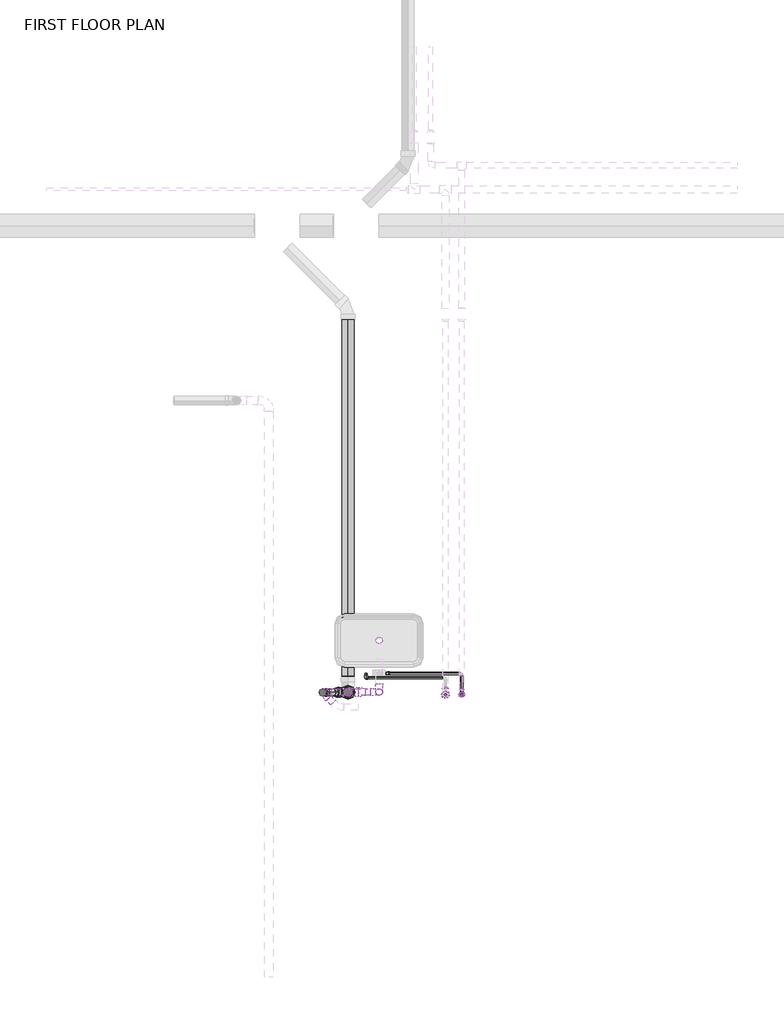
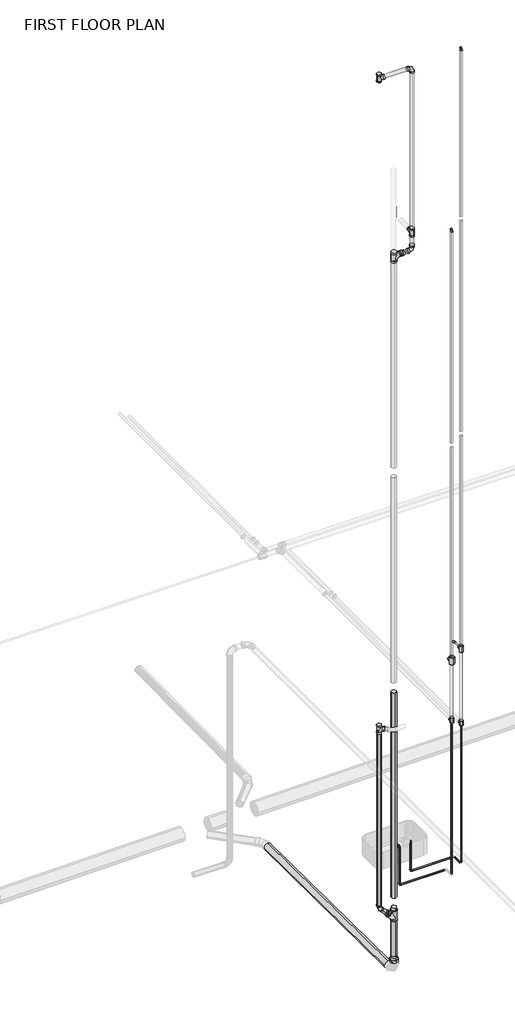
# One storey, part 2 of 29: 30 pipe fittings, 30 pipe segments.
"""IFC4 building model written with IfcOpenShell, lengths in millimetres."""

from ifc_helpers import new_model, si_unit, point, frame, frame_2d, origin, place, context, project, spatial, circle_curve, trimmed, segment, composite_curve, outline, extrude, transform, mapped, element, save
from components import bend_pvc_sch_40_dwv_standard_80f96eb1, bend_pvc_sch_40_dwv_standard_35af41d9, bend_pvc_sch_40_dwv_standard_07560f8e, ges_wye_45_deg_threaded_mi_class_150_cast_iron_sanitary_c88a242e, pipe_elbow_copper_k_aad62f2d, pipe_elbow_copper_k_4cfe590c, pipe_tee_copper_k_36278b8a, pipe_tee_copper_k_7127fd44, pipe_tee_copper_k_60c871d1, pipe_transition_copper_k_63e0b6b0, pipe_transition_copper_k_5cd7eb3f, pipe_transition_copper_k_e8f139fb, pipe_transition_copper_k_0ad24bcb, pipe_transition_copper_k_8ba7ae3f, pipe_transition_copper_k_0f2e1631, pipe_transition_copper_k_f9440895, pipe_transition_copper_k_17d9deb3, pipe_transition_copper_k_4b29cc47, reducer_pvc_sch_40_dwv_standard_b23fa098, reducer_pvc_sch_40_dwv_standard_f8e5081b, tee_sanitary_pvc_sch_40_dwv_standard_63ee02c0, tee_sanitary_pvc_sch_40_dwv_standard_3578d342, tee_sanitary_pvc_sch_40_dwv_standard_31acfb72, tee_sanitary_pvc_sch_40_dwv_standard_70a8f0c3

model = new_model("IFC4")

# Units and contexts
model_context = context("Model", 3, world=origin())
ifc_project = project(units=[si_unit("LENGTHUNIT", "METRE", prefix="MILLI")], contexts=[model_context])

# Site, building, storey
site = spatial("IfcSite", under=ifc_project)
building = spatial("IfcBuilding", under=site)
storey = spatial("IfcBuildingStorey", under=building, Name="FIRST FLOOR PLAN", Elevation=0.0)

# Pipe fittings
placement = place(None, origin())
bend_pvc_sch_40_dwv_standard_shape = bend_pvc_sch_40_dwv_standard_80f96eb1(model_context)
element("IfcPipeFitting", 1, ObjectType="Bend - PVC - Sch 40 - DWV : Standard", at=placement, inside=storey, context=model_context, shape_type="MappedRepresentation", body=[
    mapped(bend_pvc_sch_40_dwv_standard_shape, transform((-4229.3083504, 2089.7012881, 8872.178232), x_axis=(0.0, 0.0, -1.0), y_axis=(1.0, 0.0, 0.0), z_axis=(0.0, -1.0, 0.0))),
])
bend_pvc_sch_40_dwv_standard_2_shape = bend_pvc_sch_40_dwv_standard_35af41d9(model_context)
element("IfcPipeFitting", 2, ObjectType="Bend - PVC - Sch 40 - DWV : Standard", at=placement, inside=storey, context=model_context, shape_type="MappedRepresentation", body=[
    mapped(bend_pvc_sch_40_dwv_standard_2_shape, transform((-4229.3040125, 2089.7012881, 11280.7857867), x_axis=(0.0, 0.0, 1.0), y_axis=(1.0, 0.0, 0.0), z_axis=(0.0, 1.0, 0.0))),
])
bend_pvc_sch_40_dwv_standard_3_shape = bend_pvc_sch_40_dwv_standard_07560f8e(model_context)
element("IfcPipeFitting", 3, ObjectType="Bend - PVC - Sch 40 - DWV : Standard", at=placement, inside=storey, context=model_context, shape_type="MappedRepresentation", body=[
    mapped(bend_pvc_sch_40_dwv_standard_3_shape, transform((-4642.7637683, 2088.8569205, 307.7877471), x_axis=(0.0, 0.0, -1.0), y_axis=(-0.9999896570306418, -0.004548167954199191, 0.0), z_axis=(-0.004548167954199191, 0.9999896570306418, 0.0))),
])
ges_wye_45_deg_threaded_mi_class_150_cast_iron_sanitary_shape = ges_wye_45_deg_threaded_mi_class_150_cast_iron_sanitary_c88a242e(model_context)
element("IfcPipeFitting", 4, ObjectType="GES Wye 45 Deg - Threaded - MI - Class 150 : Cast Iron- Sanitary", at=placement, inside=storey, context=model_context, shape_type="MappedRepresentation", body=[
    mapped(ges_wye_45_deg_threaded_mi_class_150_cast_iron_sanitary_shape, transform((-4457.3676583, 2089.8980394, 122.1428758), x_axis=(0.0, 0.0, 1.0), y_axis=(-0.9999896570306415, -0.004548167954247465, 0.0), z_axis=(0.004548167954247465, -0.9999896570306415, 0.0))),
])
pipe_elbow_copper_k_shape = pipe_elbow_copper_k_aad62f2d(model_context)
element("IfcPipeFitting", 5, ObjectType="Pipe Elbow : Copper- K", at=placement, inside=storey, context=model_context, shape_type="MappedRepresentation", body=[
    mapped(pipe_elbow_copper_k_shape, transform((-3623.2336623, 2071.7561808, 11328.4), x_axis=(0.0, 0.0, 1.0), y_axis=(9.038744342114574e-05, 0.9999999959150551, 0.0), z_axis=(-0.9999999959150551, 9.038744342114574e-05, 0.0))),
])
element("IfcPipeFitting", 6, ObjectType="Pipe Elbow : Copper- K", at=placement, inside=storey, context=model_context, shape_type="MappedRepresentation", body=[
    mapped(pipe_elbow_copper_k_shape, transform((-3623.2336623, 2227.8137881, 3393.4757324), x_axis=(0.0, 1.0, 0.0), y_axis=(-0.9999999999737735, 0.0, 7.242448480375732e-06), z_axis=(7.242448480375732e-06, 0.0, 0.9999999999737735))),
])
element("IfcPipeFitting", 7, ObjectType="Pipe Elbow : Copper- K", at=placement, inside=storey, context=model_context, shape_type="MappedRepresentation", body=[
    mapped(pipe_elbow_copper_k_shape, transform((-4326.5858484, 2195.725865, 436.8601563), x_axis=(-1.0, 0.0, 0.0), y_axis=(0.0, 0.0, 1.0), z_axis=(0.0, 1.0, 0.0))),
])
element("IfcPipeFitting", 8, ObjectType="Pipe Elbow : Copper- K", at=placement, inside=storey, context=model_context, shape_type="MappedRepresentation", body=[
    mapped(pipe_elbow_copper_k_shape, transform((-4326.5858484, 2195.725865, 944.8601562), x_axis=(0.0, 0.0, 1.0), y_axis=(0.0, 1.0, 0.0), z_axis=(-1.0, 0.0, 0.0))),
])
element("IfcPipeFitting", 9, ObjectType="Pipe Elbow : Copper- K", at=placement, inside=storey, context=model_context, shape_type="MappedRepresentation", body=[
    mapped(pipe_elbow_copper_k_shape, transform((-3742.3858484, 2071.7561808, 8971.2601562), x_axis=(0.0, 0.0, 1.0), y_axis=(0.0, 1.0, 0.0), z_axis=(-1.0, 0.0, 0.0))),
])
pipe_elbow_copper_k_2_shape = pipe_elbow_copper_k_4cfe590c(model_context)
element("IfcPipeFitting", 10, ObjectType="Pipe Elbow : Copper- K", at=placement, inside=storey, context=model_context, shape_type="MappedRepresentation", body=[
    mapped(pipe_elbow_copper_k_2_shape, transform((-4169.3336623, 2227.8137881, 548.6796875), x_axis=(0.0, 0.0, -1.0), y_axis=(1.0, 0.0, 0.0), z_axis=(0.0, -1.0, 0.0))),
])
pipe_tee_copper_k_shape = pipe_tee_copper_k_36278b8a(model_context)
element("IfcPipeFitting", 11, ObjectType="Pipe Tee : Copper- K", at=placement, inside=storey, context=model_context, shape_type="MappedRepresentation", body=[
    mapped(pipe_tee_copper_k_shape, transform((-3742.3858484, 2071.7561808, 3281.6214111), x_axis=(0.0, 0.0, 1.0), y_axis=(0.0, -1.0, 0.0), z_axis=(1.0, 0.0, 0.0))),
])
pipe_tee_copper_k_2_shape = pipe_tee_copper_k_7127fd44(model_context)
element("IfcPipeFitting", 12, ObjectType="Pipe Tee : Copper- K", at=placement, inside=storey, context=model_context, shape_type="MappedRepresentation", body=[
    mapped(pipe_tee_copper_k_2_shape, transform((-3623.2336623, 2071.7561808, 3393.4757324), x_axis=(0.0, 0.0, 1.0), y_axis=(0.0, -1.0, 0.0), z_axis=(1.0, 0.0, 0.0))),
])
pipe_tee_copper_k_3_shape = pipe_tee_copper_k_60c871d1(model_context)
element("IfcPipeFitting", 13, ObjectType="Pipe Tee : Copper- K", at=placement, inside=storey, context=model_context, shape_type="MappedRepresentation", body=[
    mapped(pipe_tee_copper_k_3_shape, transform((-3623.2336623, 2071.7561808, 2413.0), x_axis=(0.0, 0.0, -1.0), y_axis=(0.0, -1.0, 0.0), z_axis=(-1.0, 0.0, 0.0))),
])
element("IfcPipeFitting", 14, ObjectType="Pipe Tee : Copper- K", at=placement, inside=storey, context=model_context, shape_type="MappedRepresentation", body=[
    mapped(pipe_tee_copper_k_3_shape, transform((-3742.3858484, 2071.7561808, 2490.6882812), x_axis=(0.0, 0.0, -1.0), y_axis=(0.0, -1.0, 0.0), z_axis=(-1.0, 0.0, 0.0))),
])
pipe_transition_copper_k_shape = pipe_transition_copper_k_63e0b6b0(model_context)
element("IfcPipeFitting", 15, ObjectType="Pipe Transition : Copper- K", at=placement, inside=storey, context=model_context, shape_type="MappedRepresentation", body=[
    mapped(pipe_transition_copper_k_shape, transform((-3623.2336623, 2071.7561808, 11310.9375), x_axis=(0.0, 0.0, -1.0), y_axis=(0.9999999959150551, -9.038744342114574e-05, 0.0), z_axis=(-9.038744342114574e-05, -0.9999999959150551, 0.0))),
])
pipe_transition_copper_k_2_shape = pipe_transition_copper_k_5cd7eb3f(model_context)
element("IfcPipeFitting", 16, ObjectType="Pipe Transition : Copper- K", at=placement, inside=storey, context=model_context, shape_type="MappedRepresentation", body=[
    mapped(pipe_transition_copper_k_2_shape, transform((-3742.3858484, 2071.7561808, 3324.4839111), x_axis=(0.0, 0.0, 1.0), y_axis=(-1.0, 0.0, 0.0), z_axis=(0.0, -1.0, 0.0))),
])
pipe_transition_copper_k_3_shape = pipe_transition_copper_k_e8f139fb(model_context)
element("IfcPipeFitting", 17, ObjectType="Pipe Transition : Copper- K", at=placement, inside=storey, context=model_context, shape_type="MappedRepresentation", body=[
    mapped(pipe_transition_copper_k_3_shape, transform((-3742.3858484, 2114.6186808, 3281.6214111), x_axis=(0.0, 1.0, 0.0), y_axis=(-1.0, 0.0, 0.0), z_axis=(0.0, 0.0, 1.0))),
])
pipe_transition_copper_k_4_shape = pipe_transition_copper_k_0ad24bcb(model_context)
element("IfcPipeFitting", 18, ObjectType="Pipe Transition : Copper- K", at=placement, inside=storey, context=model_context, shape_type="MappedRepresentation", body=[
    mapped(pipe_transition_copper_k_4_shape, transform((-3623.2336623, 2108.2686808, 3393.4757324), x_axis=(0.0, 1.0, 0.0), y_axis=(-1.0, 0.0, 0.0), z_axis=(0.0, 0.0, 1.0))),
])
pipe_transition_copper_k_5_shape = pipe_transition_copper_k_8ba7ae3f(model_context)
element("IfcPipeFitting", 19, ObjectType="Pipe Transition : Copper- K", at=placement, inside=storey, context=model_context, shape_type="MappedRepresentation", body=[
    mapped(pipe_transition_copper_k_5_shape, transform((-3742.3858484, 2071.7561808, 8953.7976563), x_axis=(0.0, 0.0, -1.0), y_axis=(1.0, 0.0, 0.0), z_axis=(0.0, -1.0, 0.0))),
])
pipe_transition_copper_k_6_shape = pipe_transition_copper_k_0f2e1631(model_context)
element("IfcPipeFitting", 20, ObjectType="Pipe Transition : Copper- K", at=placement, inside=storey, context=model_context, shape_type="MappedRepresentation", body=[
    mapped(pipe_transition_copper_k_6_shape, transform((-3623.2336623, 2071.7561808, 3429.9882324), x_axis=(0.0, 0.0, 1.0), y_axis=(-1.0, 0.0, 0.0), z_axis=(0.0, -1.0, 0.0))),
])
pipe_transition_copper_k_7_shape = pipe_transition_copper_k_f9440895(model_context)
element("IfcPipeFitting", 21, ObjectType="Pipe Transition : Copper- K", at=placement, inside=storey, context=model_context, shape_type="MappedRepresentation", body=[
    mapped(pipe_transition_copper_k_7_shape, transform((-3623.2336623, 2071.7561808, 3356.9632324), x_axis=(0.0, 0.0, -1.0), y_axis=(-1.0, 0.0, 0.0), z_axis=(0.0, 1.0, 0.0))),
])
pipe_transition_copper_k_8_shape = pipe_transition_copper_k_17d9deb3(model_context)
element("IfcPipeFitting", 22, ObjectType="Pipe Transition : Copper- K", at=placement, inside=storey, context=model_context, shape_type="MappedRepresentation", body=[
    mapped(pipe_transition_copper_k_8_shape, transform((-3742.3858484, 2071.7561808, 3238.7589111), x_axis=(0.0, 0.0, -1.0), y_axis=(-1.0, 0.0, 0.0), z_axis=(0.0, 1.0, 0.0))),
])
pipe_transition_copper_k_9_shape = pipe_transition_copper_k_4b29cc47(model_context)
element("IfcPipeFitting", 23, ObjectType="Pipe Transition : Copper- K", at=placement, inside=storey, context=model_context, shape_type="MappedRepresentation", body=[
    mapped(pipe_transition_copper_k_9_shape, transform((-3623.2336623, 2071.7561808, 2379.6625), x_axis=(0.0, 0.0, -1.0), y_axis=(1.0, 0.0, 0.0), z_axis=(0.0, -1.0, 0.0))),
])
reducer_pvc_sch_40_dwv_standard_shape = reducer_pvc_sch_40_dwv_standard_b23fa098(model_context)
element("IfcPipeFitting", 24, ObjectType="Reducer - PVC - Sch 40 - DWV : Standard", at=placement, inside=storey, context=model_context, shape_type="MappedRepresentation", body=[
    mapped(reducer_pvc_sch_40_dwv_standard_shape, transform((-4379.3226005, 2089.7012881, 8870.6155835), x_axis=(0.9999457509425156, 0.0, 0.010416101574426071), y_axis=(0.0, 1.0000000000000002, 0.0), z_axis=(-0.010416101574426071, 0.0, 0.9999457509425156))),
])
element("IfcPipeFitting", 25, ObjectType="Reducer - PVC - Sch 40 - DWV : Standard", at=placement, inside=storey, context=model_context, shape_type="MappedRepresentation", body=[
    mapped(reducer_pvc_sch_40_dwv_standard_shape, transform((-4528.9532566, 2089.3745552, 193.9792248), x_axis=(-0.7071093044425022, -0.0032160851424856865, 0.7070969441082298), y_axis=(0.004548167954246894, -0.9999896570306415, 0.0), z_axis=(0.7070896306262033, 0.003215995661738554, 0.7071166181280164))),
])
reducer_pvc_sch_40_dwv_standard_2_shape = reducer_pvc_sch_40_dwv_standard_f8e5081b(model_context)
element("IfcPipeFitting", 26, ObjectType="Reducer - PVC - Sch 40 - DWV : Standard", at=placement, inside=storey, context=model_context, shape_type="MappedRepresentation", body=[
    mapped(reducer_pvc_sch_40_dwv_standard_2_shape, transform((-4457.3750986, 2089.9260742, -461.5373), x_axis=(0.0, 0.0, 1.0), y_axis=(0.0, -1.0, 0.0), z_axis=(1.0, 0.0, 0.0))),
])
tee_sanitary_pvc_sch_40_dwv_standard_shape = tee_sanitary_pvc_sch_40_dwv_standard_63ee02c0(model_context)
element("IfcPipeFitting", 27, ObjectType="Tee Sanitary - PVC - Sch 40 - DWV : Standard", at=placement, inside=storey, context=model_context, shape_type="MappedRepresentation", body=[
    mapped(tee_sanitary_pvc_sch_40_dwv_standard_shape, transform((-4457.3676583, 2089.8980394, 8869.5241105), x_axis=(0.0, 0.0, 1.0), y_axis=(1.0, 0.0, 0.0), z_axis=(0.0, 1.0, 0.0))),
])
tee_sanitary_pvc_sch_40_dwv_standard_2_shape = tee_sanitary_pvc_sch_40_dwv_standard_3578d342(model_context)
element("IfcPipeFitting", 28, ObjectType="Tee Sanitary - PVC - Sch 40 - DWV : Standard", at=placement, inside=storey, context=model_context, shape_type="MappedRepresentation", body=[
    mapped(tee_sanitary_pvc_sch_40_dwv_standard_2_shape, transform((-4229.3040125, 2089.7012881, 9112.4170389), x_axis=(0.0, 0.0, 1.0), y_axis=(0.0, 1.0, 0.0), z_axis=(-1.0, 0.0, 0.0))),
])
tee_sanitary_pvc_sch_40_dwv_standard_3_shape = tee_sanitary_pvc_sch_40_dwv_standard_31acfb72(model_context)
element("IfcPipeFitting", 29, ObjectType="Tee Sanitary - PVC - Sch 40 - DWV : Standard", at=placement, inside=storey, context=model_context, shape_type="MappedRepresentation", body=[
    mapped(tee_sanitary_pvc_sch_40_dwv_standard_3_shape, transform((-4642.7638012, 2088.8641446, 2687.3998234), x_axis=(0.0, 0.0, 1.0), y_axis=(0.7098586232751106, -0.7043441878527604, 0.0), z_axis=(0.7043441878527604, 0.7098586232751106, 0.0))),
])
tee_sanitary_pvc_sch_40_dwv_standard_4_shape = tee_sanitary_pvc_sch_40_dwv_standard_70a8f0c3(model_context)
element("IfcPipeFitting", 30, ObjectType="Tee Sanitary - PVC - Sch 40 - DWV : Standard", at=placement, inside=storey, context=model_context, shape_type="MappedRepresentation", body=[
    mapped(tee_sanitary_pvc_sch_40_dwv_standard_4_shape, transform((-4642.7638012, 2088.8641446, 11280.7857867), x_axis=(0.0, 0.0, -1.0), y_axis=(0.9999958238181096, 0.0028900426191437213, 0.0), z_axis=(0.0028900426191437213, -0.9999958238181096, 0.0))),
])

# Pipe segments
element("IfcPipeSegment", 31, ObjectType="Copper", at=placement, inside=storey, context=model_context, shape_type="SweptSolid", body=[
    extrude(outline(composite_curve([segment(trimmed(circle_curve(frame_2d((-3742.3858484, 2071.7561808)), 14.2875), [point((-3756.6733484, 2071.7561808))], [point((-3742.3858484, 2086.0436808))], False, "CARTESIAN"), True, "CONTINUOUS"), segment(trimmed(circle_curve(frame_2d((-3742.3858484, 2071.7561808)), 14.2875), [point((-3742.3858484, 2086.0436808))], [point((-3728.0983484, 2071.7561808))], False, "CARTESIAN"), True, "CONTINUOUS"), segment(trimmed(circle_curve(frame_2d((-3742.3858484, 2071.7561808)), 14.2875), [point((-3728.0983484, 2071.7561808))], [point((-3742.3858484, 2057.4686808))], False, "CARTESIAN"), True, "CONTINUOUS"), segment(trimmed(circle_curve(frame_2d((-3742.3858484, 2071.7561808)), 14.2875), [point((-3742.3858484, 2057.4686808))], [point((-3756.6733484, 2071.7561808))], False, "CARTESIAN"), True, "CONTINUOUS")], self_intersect=False)), frame((0.0, 0.0, 6156.6226563), z_axis=(0.0, 0.0, 1.0), x_axis=(1.0, 0.0, 0.0)), (0.0, 0.0, 1.0), 2793.603125),
])
element("IfcPipeSegment", 32, ObjectType="Copper", at=placement, inside=storey, context=model_context, shape_type="SweptSolid", body=[
    extrude(outline(composite_curve([segment(trimmed(circle_curve(frame_2d((-3623.2336623, 2071.7561808)), 14.2875), [point((-3637.5211623, 2071.7561808))], [point((-3623.2336623, 2086.0436808))], False, "CARTESIAN"), True, "CONTINUOUS"), segment(trimmed(circle_curve(frame_2d((-3623.2336623, 2071.7561808)), 14.2875), [point((-3623.2336623, 2086.0436808))], [point((-3608.9461623, 2071.7561808))], False, "CARTESIAN"), True, "CONTINUOUS"), segment(trimmed(circle_curve(frame_2d((-3623.2336623, 2071.7561808)), 14.2875), [point((-3608.9461623, 2071.7561808))], [point((-3623.2336623, 2057.4686808))], False, "CARTESIAN"), True, "CONTINUOUS"), segment(trimmed(circle_curve(frame_2d((-3623.2336623, 2071.7561808)), 14.2875), [point((-3623.2336623, 2057.4686808))], [point((-3637.5211623, 2071.7561808))], False, "CARTESIAN"), True, "CONTINUOUS")], self_intersect=False)), frame((0.0, 0.0, 9113.2382324), z_axis=(0.0, 0.0, 1.0), x_axis=(1.0, 0.0, 0.0)), (0.0, 0.0, 1.0), 2194.1273926),
])
element("IfcPipeSegment", 33, ObjectType="Copper", at=placement, inside=storey, context=model_context, shape_type="SweptSolid", body=[
    extrude(outline(composite_curve([segment(trimmed(circle_curve(frame_2d((3393.4757324, -3623.2336623)), 7.9375), [point((3393.4757324, -3615.2961623))], [point((3401.4132324, -3623.2336623))], False, "CARTESIAN"), True, "CONTINUOUS"), segment(trimmed(circle_curve(frame_2d((3393.4757324, -3623.2336623)), 7.9375), [point((3401.4132324, -3623.2336623))], [point((3393.4757324, -3631.1711623))], False, "CARTESIAN"), True, "CONTINUOUS"), segment(trimmed(circle_curve(frame_2d((3393.4757324, -3623.2336623)), 7.9375), [point((3393.4757324, -3631.1711623))], [point((3385.5382324, -3623.2336623))], False, "CARTESIAN"), True, "CONTINUOUS"), segment(trimmed(circle_curve(frame_2d((3393.4757324, -3623.2336623)), 7.9375), [point((3385.5382324, -3623.2336623))], [point((3393.4757324, -3615.2961623))], False, "CARTESIAN"), True, "CONTINUOUS")], self_intersect=False)), frame((0.0, 2118.5874308, 0.0), z_axis=(0.0, 1.0, 0.0), x_axis=(0.0, 0.0, 1.0)), (0.0, 0.0, 1.0), 91.7638572),
])
element("IfcPipeSegment", 34, ObjectType="Copper", at=placement, inside=storey, context=model_context, shape_type="SweptSolid", body=[
    extrude(outline(composite_curve([segment(trimmed(circle_curve(frame_2d((-3623.2336623, 2071.7561808)), 17.4625), [point((-3640.6961623, 2071.7561808))], [point((-3623.2336623, 2089.2186808))], False, "CARTESIAN"), True, "CONTINUOUS"), segment(trimmed(circle_curve(frame_2d((-3623.2336623, 2071.7561808)), 17.4625), [point((-3623.2336623, 2089.2186808))], [point((-3605.7711623, 2071.7561808))], False, "CARTESIAN"), True, "CONTINUOUS"), segment(trimmed(circle_curve(frame_2d((-3623.2336623, 2071.7561808)), 17.4625), [point((-3605.7711623, 2071.7561808))], [point((-3623.2336623, 2054.2936808))], False, "CARTESIAN"), True, "CONTINUOUS"), segment(trimmed(circle_curve(frame_2d((-3623.2336623, 2071.7561808)), 17.4625), [point((-3623.2336623, 2054.2936808))], [point((-3640.6961623, 2071.7561808))], False, "CARTESIAN"), True, "CONTINUOUS")], self_intersect=False)), frame((0.0, 0.0, 2446.3375), z_axis=(0.0, 0.0, 1.0), x_axis=(1.0, 0.0, 0.0)), (0.0, 0.0, 1.0), 900.3069824),
])
element("IfcPipeSegment", 35, ObjectType="Copper", at=placement, inside=storey, context=model_context, shape_type="SweptSolid", body=[
    extrude(outline(composite_curve([segment(trimmed(circle_curve(frame_2d((-3742.3858484, 2071.7561808)), 17.4625), [point((-3759.8483484, 2071.7561808))], [point((-3742.3858484, 2089.2186808))], False, "CARTESIAN"), True, "CONTINUOUS"), segment(trimmed(circle_curve(frame_2d((-3742.3858484, 2071.7561808)), 17.4625), [point((-3742.3858484, 2089.2186808))], [point((-3724.9233484, 2071.7561808))], False, "CARTESIAN"), True, "CONTINUOUS"), segment(trimmed(circle_curve(frame_2d((-3742.3858484, 2071.7561808)), 17.4625), [point((-3724.9233484, 2071.7561808))], [point((-3742.3858484, 2054.2936808))], False, "CARTESIAN"), True, "CONTINUOUS"), segment(trimmed(circle_curve(frame_2d((-3742.3858484, 2071.7561808)), 17.4625), [point((-3742.3858484, 2054.2936808))], [point((-3759.8483484, 2071.7561808))], False, "CARTESIAN"), True, "CONTINUOUS")], self_intersect=False)), frame((0.0, 0.0, 2524.0257812), z_axis=(0.0, 0.0, 1.0), x_axis=(1.0, 0.0, 0.0)), (0.0, 0.0, 1.0), 701.2393798),
])
element("IfcPipeSegment", 36, ObjectType="Copper", at=placement, inside=storey, context=model_context, shape_type="SweptSolid", body=[
    extrude(outline(composite_curve([segment(trimmed(circle_curve(frame_2d((944.8601563, -4326.5858484)), 7.9375), [point((944.8601563, -4318.6483484))], [point((952.7976563, -4326.5858484))], False, "CARTESIAN"), True, "CONTINUOUS"), segment(trimmed(circle_curve(frame_2d((944.8601563, -4326.5858484)), 7.9375), [point((952.7976563, -4326.5858484))], [point((944.8601563, -4334.5233484))], False, "CARTESIAN"), True, "CONTINUOUS"), segment(trimmed(circle_curve(frame_2d((944.8601563, -4326.5858484)), 7.9375), [point((944.8601563, -4334.5233484))], [point((936.9226563, -4326.5858484))], False, "CARTESIAN"), True, "CONTINUOUS"), segment(trimmed(circle_curve(frame_2d((944.8601563, -4326.5858484)), 7.9375), [point((936.9226563, -4326.5858484))], [point((944.8601563, -4318.6483484))], False, "CARTESIAN"), True, "CONTINUOUS")], self_intersect=False)), frame((0.0, 2213.188365, 0.0), z_axis=(0.0, 1.0, 0.0), x_axis=(0.0, 0.0, 1.0)), (0.0, 0.0, 1.0), 17.3178158),
])
element("IfcPipeSegment", 37, ObjectType="Copper", at=placement, inside=storey, context=model_context, shape_type="SweptSolid", body=[
    extrude(outline(composite_curve([segment(trimmed(circle_curve(frame_2d((0.0, 7.9375)), 7.9375), [point((-7.9375, 7.9375))], [point((0.0, 15.875))], False, "CARTESIAN"), True, "CONTINUOUS"), segment(trimmed(circle_curve(frame_2d((0.0, 7.9375)), 7.9375), [point((0.0, 15.875))], [point((7.9375, 7.9375))], False, "CARTESIAN"), True, "CONTINUOUS"), segment(trimmed(circle_curve(frame_2d((0.0, 7.9375)), 7.9375), [point((7.9375, 7.9375))], [point((0.0, 0.0))], False, "CARTESIAN"), True, "CONTINUOUS"), segment(trimmed(circle_curve(frame_2d((0.0, 7.9375)), 7.9375), [point((0.0, 0.0))], [point((-7.9375, 7.9375))], False, "CARTESIAN"), True, "CONTINUOUS")], self_intersect=False)), frame((-3640.6962197, 2227.8137881, 540.7383589), z_axis=(-0.9999999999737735, 0.0, 7.242448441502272e-06), x_axis=(0.0, -1.0, 0.0)), (0.0, 0.0, 1.0), 511.1751265),
])
element("IfcPipeSegment", 38, ObjectType="Copper", at=placement, inside=storey, context=model_context, shape_type="SweptSolid", body=[
    extrude(outline(composite_curve([segment(trimmed(circle_curve(frame_2d((-4169.3336623, 2227.8137881)), 7.9375), [point((-4177.2711623, 2227.8137881))], [point((-4169.3336623, 2235.7512881))], False, "CARTESIAN"), True, "CONTINUOUS"), segment(trimmed(circle_curve(frame_2d((-4169.3336623, 2227.8137881)), 7.9375), [point((-4169.3336623, 2235.7512881))], [point((-4161.3961623, 2227.8137881))], False, "CARTESIAN"), True, "CONTINUOUS"), segment(trimmed(circle_curve(frame_2d((-4169.3336623, 2227.8137881)), 7.9375), [point((-4161.3961623, 2227.8137881))], [point((-4169.3336623, 2219.8762881))], False, "CARTESIAN"), True, "CONTINUOUS"), segment(trimmed(circle_curve(frame_2d((-4169.3336623, 2227.8137881)), 7.9375), [point((-4169.3336623, 2219.8762881))], [point((-4177.2711623, 2227.8137881))], False, "CARTESIAN"), True, "CONTINUOUS")], self_intersect=False)), frame((0.0, 0.0, 566.142061), z_axis=(0.0, 0.0, 1.0), x_axis=(1.0, 0.0, 0.0)), (0.0, 0.0, 1.0), 378.7180952),
])
element("IfcPipeSegment", 39, ObjectType="Copper", at=placement, inside=storey, context=model_context, shape_type="SweptSolid", body=[
    extrude(outline(composite_curve([segment(trimmed(circle_curve(frame_2d((2195.725865, 436.8601562)), 7.9375), [point((2203.663365, 436.8601562))], [point((2195.725865, 428.9226562))], False, "CARTESIAN"), True, "CONTINUOUS"), segment(trimmed(circle_curve(frame_2d((2195.725865, 436.8601562)), 7.9375), [point((2195.725865, 428.9226562))], [point((2187.788365, 436.8601562))], False, "CARTESIAN"), True, "CONTINUOUS"), segment(trimmed(circle_curve(frame_2d((2195.725865, 436.8601562)), 7.9375), [point((2187.788365, 436.8601562))], [point((2195.725865, 444.7976562))], False, "CARTESIAN"), True, "CONTINUOUS"), segment(trimmed(circle_curve(frame_2d((2195.725865, 436.8601562)), 7.9375), [point((2195.725865, 444.7976562))], [point((2203.663365, 436.8601562))], False, "CARTESIAN"), True, "CONTINUOUS")], self_intersect=False)), frame((-4309.1233484, 0.0, 0.0), z_axis=(1.0, 0.0, 0.0), x_axis=(0.0, 1.0, 0.0)), (0.0, 0.0, 1.0), 549.275),
])
element("IfcPipeSegment", 40, ObjectType="Copper", at=placement, inside=storey, context=model_context, shape_type="SweptSolid", body=[
    extrude(outline(composite_curve([segment(trimmed(circle_curve(frame_2d((-4326.5858484, 2195.725865)), 7.9375), [point((-4334.5233484, 2195.725865))], [point((-4326.5858484, 2203.663365))], False, "CARTESIAN"), True, "CONTINUOUS"), segment(trimmed(circle_curve(frame_2d((-4326.5858484, 2195.725865)), 7.9375), [point((-4326.5858484, 2203.663365))], [point((-4318.6483484, 2195.725865))], False, "CARTESIAN"), True, "CONTINUOUS"), segment(trimmed(circle_curve(frame_2d((-4326.5858484, 2195.725865)), 7.9375), [point((-4318.6483484, 2195.725865))], [point((-4326.5858484, 2187.788365))], False, "CARTESIAN"), True, "CONTINUOUS"), segment(trimmed(circle_curve(frame_2d((-4326.5858484, 2195.725865)), 7.9375), [point((-4326.5858484, 2187.788365))], [point((-4334.5233484, 2195.725865))], False, "CARTESIAN"), True, "CONTINUOUS")], self_intersect=False)), frame((0.0, 0.0, 454.3226562), z_axis=(0.0, 0.0, 1.0), x_axis=(1.0, 0.0, 0.0)), (0.0, 0.0, 1.0), 473.075),
])
element("IfcPipeSegment", 41, ObjectType="Copper", at=placement, inside=storey, context=model_context, shape_type="SweptSolid", body=[
    extrude(outline(composite_curve([segment(trimmed(circle_curve(frame_2d((-3623.2336623, 2071.7561808)), 14.2875), [point((-3637.5211623, 2071.7561808))], [point((-3623.2336623, 2086.0436808))], False, "CARTESIAN"), True, "CONTINUOUS"), segment(trimmed(circle_curve(frame_2d((-3623.2336623, 2071.7561808)), 14.2875), [point((-3623.2336623, 2086.0436808))], [point((-3608.9461623, 2071.7561808))], False, "CARTESIAN"), True, "CONTINUOUS"), segment(trimmed(circle_curve(frame_2d((-3623.2336623, 2071.7561808)), 14.2875), [point((-3608.9461623, 2071.7561808))], [point((-3623.2336623, 2057.4686808))], False, "CARTESIAN"), True, "CONTINUOUS"), segment(trimmed(circle_curve(frame_2d((-3623.2336623, 2071.7561808)), 14.2875), [point((-3623.2336623, 2057.4686808))], [point((-3637.5211623, 2071.7561808))], False, "CARTESIAN"), True, "CONTINUOUS")], self_intersect=False)), frame((0.0, 0.0, 6268.4382324), z_axis=(0.0, 0.0, 1.0), x_axis=(1.0, 0.0, 0.0)), (0.0, 0.0, 1.0), 2784.475),
])
element("IfcPipeSegment", 42, ObjectType="Copper", at=placement, inside=storey, context=model_context, shape_type="SweptSolid", body=[
    extrude(outline(composite_curve([segment(trimmed(circle_curve(frame_2d((-3742.3858484, 2071.7561808)), 14.2875), [point((-3756.6733484, 2071.7561808))], [point((-3742.3858484, 2086.0436808))], False, "CARTESIAN"), True, "CONTINUOUS"), segment(trimmed(circle_curve(frame_2d((-3742.3858484, 2071.7561808)), 14.2875), [point((-3742.3858484, 2086.0436808))], [point((-3728.0983484, 2071.7561808))], False, "CARTESIAN"), True, "CONTINUOUS"), segment(trimmed(circle_curve(frame_2d((-3742.3858484, 2071.7561808)), 14.2875), [point((-3728.0983484, 2071.7561808))], [point((-3742.3858484, 2057.4686808))], False, "CARTESIAN"), True, "CONTINUOUS"), segment(trimmed(circle_curve(frame_2d((-3742.3858484, 2071.7561808)), 14.2875), [point((-3742.3858484, 2057.4686808))], [point((-3756.6733484, 2071.7561808))], False, "CARTESIAN"), True, "CONTINUOUS")], self_intersect=False)), frame((0.0, 0.0, 3337.9776611), z_axis=(0.0, 0.0, 1.0), x_axis=(1.0, 0.0, 0.0)), (0.0, 0.0, 1.0), 2758.3199952),
])
element("IfcPipeSegment", 43, ObjectType="Copper", at=placement, inside=storey, context=model_context, shape_type="SweptSolid", body=[
    extrude(outline(composite_curve([segment(trimmed(circle_curve(frame_2d((-3623.2336623, 2071.7561808)), 14.2875), [point((-3637.5211623, 2071.7561808))], [point((-3623.2336623, 2086.0436808))], False, "CARTESIAN"), True, "CONTINUOUS"), segment(trimmed(circle_curve(frame_2d((-3623.2336623, 2071.7561808)), 14.2875), [point((-3623.2336623, 2086.0436808))], [point((-3608.9461623, 2071.7561808))], False, "CARTESIAN"), True, "CONTINUOUS"), segment(trimmed(circle_curve(frame_2d((-3623.2336623, 2071.7561808)), 14.2875), [point((-3608.9461623, 2071.7561808))], [point((-3623.2336623, 2057.4686808))], False, "CARTESIAN"), True, "CONTINUOUS"), segment(trimmed(circle_curve(frame_2d((-3623.2336623, 2071.7561808)), 14.2875), [point((-3623.2336623, 2057.4686808))], [point((-3637.5211623, 2071.7561808))], False, "CARTESIAN"), True, "CONTINUOUS")], self_intersect=False)), frame((0.0, 0.0, 3440.3069824), z_axis=(0.0, 0.0, 1.0), x_axis=(1.0, 0.0, 0.0)), (0.0, 0.0, 1.0), 2767.80625),
])
element("IfcPipeSegment", 44, ObjectType="Copper", at=placement, inside=storey, context=model_context, shape_type="SweptSolid", body=[
    extrude(outline(composite_curve([segment(trimmed(circle_curve(frame_2d((-3623.2336623, 2071.7561808)), 7.9375), [point((-3615.2961623, 2071.7561808))], [point((-3623.2336623, 2063.8186808))], False, "CARTESIAN"), True, "CONTINUOUS"), segment(trimmed(circle_curve(frame_2d((-3623.2336623, 2071.7561808)), 7.9375), [point((-3623.2336623, 2063.8186808))], [point((-3631.1711623, 2071.7561808))], False, "CARTESIAN"), True, "CONTINUOUS"), segment(trimmed(circle_curve(frame_2d((-3623.2336623, 2071.7561808)), 7.9375), [point((-3631.1711623, 2071.7561808))], [point((-3623.2336623, 2079.6936808))], False, "CARTESIAN"), True, "CONTINUOUS"), segment(trimmed(circle_curve(frame_2d((-3623.2336623, 2071.7561808)), 7.9375), [point((-3623.2336623, 2079.6936808))], [point((-3615.2961623, 2071.7561808))], False, "CARTESIAN"), True, "CONTINUOUS")], self_intersect=False)), frame((0.0, 0.0, 566.1382324), z_axis=(0.0, 0.0, 1.0), x_axis=(1.0, 0.0, 0.0)), (0.0, 0.0, 1.0), 1804.7930176),
])
element("IfcPipeSegment", 45, ObjectType="Copper", at=placement, inside=storey, context=model_context, shape_type="SweptSolid", body=[
    extrude(outline(composite_curve([segment(trimmed(circle_curve(frame_2d((-3742.3858484, 2071.7561808)), 7.9375), [point((-3750.3233484, 2071.7561808))], [point((-3742.3858484, 2079.6936808))], False, "CARTESIAN"), True, "CONTINUOUS"), segment(trimmed(circle_curve(frame_2d((-3742.3858484, 2071.7561808)), 7.9375), [point((-3742.3858484, 2079.6936808))], [point((-3734.4483484, 2071.7561808))], False, "CARTESIAN"), True, "CONTINUOUS"), segment(trimmed(circle_curve(frame_2d((-3742.3858484, 2071.7561808)), 7.9375), [point((-3734.4483484, 2071.7561808))], [point((-3742.3858484, 2063.8186808))], False, "CARTESIAN"), True, "CONTINUOUS"), segment(trimmed(circle_curve(frame_2d((-3742.3858484, 2071.7561808)), 7.9375), [point((-3742.3858484, 2063.8186808))], [point((-3750.3233484, 2071.7561808))], False, "CARTESIAN"), True, "CONTINUOUS")], self_intersect=False)), frame((0.0, 0.0, 454.3226562), z_axis=(0.0, 0.0, 1.0), x_axis=(1.0, 0.0, 0.0)), (0.0, 0.0, 1.0), 1998.6625),
])
element("IfcPipeSegment", 46, ObjectType="Copper", at=placement, inside=storey, context=model_context, shape_type="SweptSolid", body=[
    extrude(outline(composite_curve([segment(trimmed(circle_curve(frame_2d((548.6757324, -3623.2336623)), 7.9375), [point((548.6757324, -3615.2961623))], [point((556.6132324, -3623.2336623))], False, "CARTESIAN"), True, "CONTINUOUS"), segment(trimmed(circle_curve(frame_2d((548.6757324, -3623.2336623)), 7.9375), [point((556.6132324, -3623.2336623))], [point((548.6757324, -3631.1711623))], False, "CARTESIAN"), True, "CONTINUOUS"), segment(trimmed(circle_curve(frame_2d((548.6757324, -3623.2336623)), 7.9375), [point((548.6757324, -3631.1711623))], [point((540.7382324, -3623.2336623))], False, "CARTESIAN"), True, "CONTINUOUS"), segment(trimmed(circle_curve(frame_2d((548.6757324, -3623.2336623)), 7.9375), [point((540.7382324, -3623.2336623))], [point((548.6757324, -3615.2961623))], False, "CARTESIAN"), True, "CONTINUOUS")], self_intersect=False)), frame((0.0, 2089.2186808, 0.0), z_axis=(0.0, 1.0, 0.0), x_axis=(0.0, 0.0, 1.0)), (0.0, 0.0, 1.0), 121.1326072),
])
element("IfcPipeSegment", 47, ObjectType="PVC - SAN/STORM", at=placement, inside=storey, context=model_context, shape_type="SweptSolid", body=[
    extrude(outline(composite_curve([segment(trimmed(circle_curve(frame_2d((0.0, -44.45)), 44.45), [point((44.45, -44.45))], [point((0.0, -88.9000001))], False, "CARTESIAN"), True, "CONTINUOUS"), segment(trimmed(circle_curve(frame_2d((0.0, -44.45)), 44.45), [point((0.0, -88.9000001))], [point((-44.45, -44.45))], False, "CARTESIAN"), True, "CONTINUOUS"), segment(trimmed(circle_curve(frame_2d((0.0, -44.45)), 44.45), [point((-44.45, -44.45))], [point((0.0, 0.0))], False, "CARTESIAN"), True, "CONTINUOUS"), segment(trimmed(circle_curve(frame_2d((0.0, -44.45)), 44.45), [point((0.0, 0.0))], [point((44.45, -44.45))], False, "CARTESIAN"), True, "CONTINUOUS")], self_intersect=False)), frame((-4457.3750986, 4826.8283534, -558.090618), z_axis=(0.0, -0.9999579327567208, 0.009172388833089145), x_axis=(1.0, 0.0, 0.0)), (0.0, 0.0, 1.0), 2620.7094882),
])
element("IfcPipeSegment", 48, ObjectType="PVC - SAN/STORM", at=placement, inside=storey, context=model_context, shape_type="SweptSolid", body=[
    extrude(outline(composite_curve([segment(trimmed(circle_curve(frame_2d((-4229.3040125, 2469.1137881)), 24.13), [point((-4253.4340125, 2469.1137881))], [point((-4229.3040125, 2493.2437881))], False, "CARTESIAN"), True, "CONTINUOUS"), segment(trimmed(circle_curve(frame_2d((-4229.3040125, 2469.1137881)), 24.13), [point((-4229.3040125, 2493.2437881))], [point((-4205.1740125, 2469.1137881))], False, "CARTESIAN"), True, "CONTINUOUS"), segment(trimmed(circle_curve(frame_2d((-4229.3040125, 2469.1137881)), 24.13), [point((-4205.1740125, 2469.1137881))], [point((-4229.3040125, 2444.9837881))], False, "CARTESIAN"), True, "CONTINUOUS"), segment(trimmed(circle_curve(frame_2d((-4229.3040125, 2469.1137881)), 24.13), [point((-4229.3040125, 2444.9837881))], [point((-4253.4340125, 2469.1137881))], False, "CARTESIAN"), True, "CONTINUOUS")], self_intersect=False)), frame((0.0, 0.0, 9070.5010858), z_axis=(0.0, 0.0, 1.0), x_axis=(1.0, 0.0, 0.0)), (0.0, 0.0, 1.0), 139.7),
])
element("IfcPipeSegment", 49, ObjectType="PVC - SAN/STORM", at=placement, inside=storey, context=model_context, shape_type="SweptSolid", body=[
    extrude(outline(composite_curve([segment(trimmed(circle_curve(frame_2d((0.0, 24.13)), 24.13), [point((0.0, 0.0))], [point((-24.13, 24.13))], False, "CARTESIAN"), True, "CONTINUOUS"), segment(trimmed(circle_curve(frame_2d((0.0, 24.13)), 24.13), [point((-24.13, 24.13))], [point((0.0, 48.26))], False, "CARTESIAN"), True, "CONTINUOUS"), segment(trimmed(circle_curve(frame_2d((0.0, 24.13)), 24.13), [point((0.0, 48.26))], [point((24.13, 24.13))], False, "CARTESIAN"), True, "CONTINUOUS"), segment(trimmed(circle_curve(frame_2d((0.0, 24.13)), 24.13), [point((24.13, 24.13))], [point((0.0, 0.0))], False, "CARTESIAN"), True, "CONTINUOUS")], self_intersect=False)), frame((-4329.3381123, 2065.5712881, 8871.1362553), z_axis=(0.9999457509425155, 0.0, 0.010416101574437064), x_axis=(0.010416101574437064, 0.0, -0.9999457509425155)), (0.0, 0.0, 1.0), 38.1353887),
])
element("IfcPipeSegment", 50, ObjectType="PVC - SAN/STORM", at=placement, inside=storey, context=model_context, shape_type="SweptSolid", body=[
    extrude(outline(composite_curve([segment(trimmed(circle_curve(frame_2d((0.0, -24.13)), 24.13), [point((-24.1299999, -24.13))], [point((0.0, 0.0))], False, "CARTESIAN"), True, "CONTINUOUS"), segment(trimmed(circle_curve(frame_2d((0.0, -24.13)), 24.13), [point((0.0, 0.0))], [point((24.13, -24.13))], False, "CARTESIAN"), True, "CONTINUOUS"), segment(trimmed(circle_curve(frame_2d((0.0, -24.13)), 24.13), [point((24.13, -24.13))], [point((0.0, -48.26))], False, "CARTESIAN"), True, "CONTINUOUS"), segment(trimmed(circle_curve(frame_2d((0.0, -24.13)), 24.13), [point((0.0, -48.26))], [point((-24.1299999, -24.13))], False, "CARTESIAN"), True, "CONTINUOUS")], self_intersect=False)), frame((-4229.3083504, 2065.5712881, 8934.078032), z_axis=(3.725464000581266e-05, 0.0, 0.999999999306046), x_axis=(-0.999999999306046, 0.0, 3.725464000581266e-05)), (0.0, 0.0, 1.0), 116.439207),
])
element("IfcPipeSegment", 51, ObjectType="PVC - SAN/STORM", at=placement, inside=storey, context=model_context, shape_type="SweptSolid", body=[
    extrude(outline(composite_curve([segment(trimmed(circle_curve(frame_2d((-4457.3676583, 2089.8980394)), 30.1625), [point((-4487.5301583, 2089.8980394))], [point((-4457.3676583, 2120.0605394))], False, "CARTESIAN"), True, "CONTINUOUS"), segment(trimmed(circle_curve(frame_2d((-4457.3676583, 2089.8980394)), 30.1625), [point((-4457.3676583, 2120.0605394))], [point((-4427.2051583, 2089.8980394))], False, "CARTESIAN"), True, "CONTINUOUS"), segment(trimmed(circle_curve(frame_2d((-4457.3676583, 2089.8980394)), 30.1625), [point((-4427.2051583, 2089.8980394))], [point((-4457.3676583, 2059.7355394))], False, "CARTESIAN"), True, "CONTINUOUS"), segment(trimmed(circle_curve(frame_2d((-4457.3676583, 2089.8980394)), 30.1625), [point((-4457.3676583, 2059.7355394))], [point((-4487.5301583, 2089.8980394))], False, "CARTESIAN"), True, "CONTINUOUS")], self_intersect=False)), frame((0.0, 0.0, 6080.9367935), z_axis=(0.0, 0.0, 1.0), x_axis=(1.0, 0.0, 0.0)), (0.0, 0.0, 1.0), 2710.787117),
])
element("IfcPipeSegment", 52, ObjectType="PVC - SAN/STORM", at=placement, inside=storey, context=model_context, shape_type="SweptSolid", body=[
    extrude(outline(composite_curve([segment(trimmed(circle_curve(frame_2d((-4229.3040125, 2089.7012881)), 24.13), [point((-4253.4340125, 2089.7012881))], [point((-4229.3040125, 2113.8312881))], False, "CARTESIAN"), True, "CONTINUOUS"), segment(trimmed(circle_curve(frame_2d((-4229.3040125, 2089.7012881)), 24.13), [point((-4229.3040125, 2113.8312881))], [point((-4205.1740125, 2089.7012881))], False, "CARTESIAN"), True, "CONTINUOUS"), segment(trimmed(circle_curve(frame_2d((-4229.3040125, 2089.7012881)), 24.13), [point((-4205.1740125, 2089.7012881))], [point((-4229.3040125, 2065.5712881))], False, "CARTESIAN"), True, "CONTINUOUS"), segment(trimmed(circle_curve(frame_2d((-4229.3040125, 2089.7012881)), 24.13), [point((-4229.3040125, 2065.5712881))], [point((-4253.4340125, 2089.7012881))], False, "CARTESIAN"), True, "CONTINUOUS")], self_intersect=False)), frame((0.0, 0.0, 9158.6112003), z_axis=(0.0, 0.0, 1.0), x_axis=(1.0, 0.0, 0.0)), (0.0, 0.0, 1.0), 2060.2747864),
])
element("IfcPipeSegment", 53, ObjectType="PVC - SAN/STORM", at=placement, inside=storey, context=model_context, shape_type="SweptSolid", body=[
    extrude(outline(composite_curve([segment(trimmed(circle_curve(frame_2d((-4457.3676583, 2089.8980394)), 30.1625), [point((-4487.5301583, 2089.8980394))], [point((-4457.3676583, 2120.0605394))], False, "CARTESIAN"), True, "CONTINUOUS"), segment(trimmed(circle_curve(frame_2d((-4457.3676583, 2089.8980394)), 30.1625), [point((-4457.3676583, 2120.0605394))], [point((-4427.2051583, 2089.8980394))], False, "CARTESIAN"), True, "CONTINUOUS"), segment(trimmed(circle_curve(frame_2d((-4457.3676583, 2089.8980394)), 30.1625), [point((-4427.2051583, 2089.8980394))], [point((-4457.3676583, 2059.7355394))], False, "CARTESIAN"), True, "CONTINUOUS"), segment(trimmed(circle_curve(frame_2d((-4457.3676583, 2089.8980394)), 30.1625), [point((-4457.3676583, 2059.7355394))], [point((-4487.5301583, 2089.8980394))], False, "CARTESIAN"), True, "CONTINUOUS")], self_intersect=False)), frame((0.0, 0.0, 223.7362282), z_axis=(0.0, 0.0, 1.0), x_axis=(1.0, 0.0, 0.0)), (0.0, 0.0, 1.0), 35.8253653),
])
element("IfcPipeSegment", 54, ObjectType="PVC - SAN/STORM", at=placement, inside=storey, context=model_context, shape_type="SweptSolid", body=[
    extrude(outline(composite_curve([segment(trimmed(circle_curve(frame_2d((0.0, 24.13)), 24.13), [point((24.128658, 24.3844918))], [point((0.2544918, 0.001342))], False, "CARTESIAN"), True, "CONTINUOUS"), segment(trimmed(circle_curve(frame_2d((0.0, 24.13)), 24.13), [point((0.2544918, 0.001342))], [point((-24.1286579, 23.8755083))], False, "CARTESIAN"), True, "CONTINUOUS"), segment(trimmed(circle_curve(frame_2d((0.0, 24.13)), 24.13), [point((-24.1286579, 23.8755083))], [point((-0.2544917, 48.258658))], False, "CARTESIAN"), True, "CONTINUOUS"), segment(trimmed(circle_curve(frame_2d((0.0, 24.13)), 24.13), [point((-0.2544917, 48.258658))], [point((24.128658, 24.3844918))], False, "CARTESIAN"), True, "CONTINUOUS")], self_intersect=False)), frame((-4567.6657302, 2013.9909518, 2710.4199391), z_axis=(-0.7098197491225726, 0.7043056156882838, 0.010465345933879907), x_axis=(0.7043833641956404, 0.7097414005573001, 0.010546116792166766)), (0.0, 0.0, 1.0), 43.8989906),
])
element("IfcPipeSegment", 55, ObjectType="PVC - SAN/STORM", at=placement, inside=storey, context=model_context, shape_type="SweptSolid", body=[
    extrude(outline(composite_curve([segment(trimmed(circle_curve(frame_2d((0.0, -24.13)), 24.13), [point((-24.13, -24.13))], [point((0.0, 0.0))], False, "CARTESIAN"), True, "CONTINUOUS"), segment(trimmed(circle_curve(frame_2d((0.0, -24.13)), 24.13), [point((0.0, 0.0))], [point((24.13, -24.13))], False, "CARTESIAN"), True, "CONTINUOUS"), segment(trimmed(circle_curve(frame_2d((0.0, -24.13)), 24.13), [point((24.13, -24.13))], [point((0.0, -48.26))], False, "CARTESIAN"), True, "CONTINUOUS"), segment(trimmed(circle_curve(frame_2d((0.0, -24.13)), 24.13), [point((0.0, -48.26))], [point((-24.13, -24.13))], False, "CARTESIAN"), True, "CONTINUOUS")], self_intersect=False)), frame((-4642.7637683, 2064.7269205, 350.6376237), z_axis=(-1.4443308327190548e-08, 3.175601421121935e-06, 0.9999999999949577), x_axis=(-1.0, 0.0, -1.444330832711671e-08)), (0.0, 0.0, 1.0), 2274.8624763),
])
element("IfcPipeSegment", 56, ObjectType="PVC - SAN/STORM", at=placement, inside=storey, context=model_context, shape_type="SweptSolid", body=[
    extrude(outline(composite_curve([segment(trimmed(circle_curve(frame_2d((0.0, -24.13)), 24.13), [point((0.1552067, -48.2595008))], [point((-24.1295008, -24.2852067))], False, "CARTESIAN"), True, "CONTINUOUS"), segment(trimmed(circle_curve(frame_2d((0.0, -24.13)), 24.13), [point((-24.1295008, -24.2852067))], [point((-0.1552067, -0.0004992))], False, "CARTESIAN"), True, "CONTINUOUS"), segment(trimmed(circle_curve(frame_2d((0.0, -24.13)), 24.13), [point((-0.1552067, -0.0004992))], [point((24.1295009, -23.9747933))], False, "CARTESIAN"), True, "CONTINUOUS"), segment(trimmed(circle_curve(frame_2d((0.0, -24.13)), 24.13), [point((24.1295009, -23.9747933))], [point((0.1552067, -48.2595008))], False, "CARTESIAN"), True, "CONTINUOUS")], self_intersect=False)), frame((-4564.2996708, 2113.3435425, 229.4347704), z_axis=(-0.7071093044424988, -0.003216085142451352, 0.7070969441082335), x_axis=(0.7071042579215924, -0.003216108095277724, 0.707101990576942)), (0.0, 0.0, 1.0), 68.1147949),
])
element("IfcPipeSegment", 57, ObjectType="PVC - SAN/STORM", at=placement, inside=storey, context=model_context, shape_type="SweptSolid", body=[
    extrude(outline(composite_curve([segment(trimmed(circle_curve(frame_2d((0.0, 30.1625001)), 30.1625), [point((-30.1625, 30.1625001))], [point((0.0, 60.325))], False, "CARTESIAN"), True, "CONTINUOUS"), segment(trimmed(circle_curve(frame_2d((0.0, 30.1625001)), 30.1625), [point((0.0, 60.325))], [point((30.1625, 30.1625))], False, "CARTESIAN"), True, "CONTINUOUS"), segment(trimmed(circle_curve(frame_2d((0.0, 30.1625001)), 30.1625), [point((30.1625, 30.1625))], [point((0.0, 0.0))], False, "CARTESIAN"), True, "CONTINUOUS"), segment(trimmed(circle_curve(frame_2d((0.0, 30.1625001)), 30.1625), [point((0.0, 0.0))], [point((-30.1625, 30.1625001))], False, "CARTESIAN"), True, "CONTINUOUS")], self_intersect=False)), frame((-4457.3750986, 2059.7635742, -382.1641115), z_axis=(1.593885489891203e-05, -6.005674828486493e-05, 0.9999999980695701), x_axis=(0.9999999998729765, 9.572360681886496e-10, -1.5938854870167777e-05)), (0.0, 0.0, 1.0), 466.8051767),
])
element("IfcPipeSegment", 58, ObjectType="PVC - SAN/STORM", at=placement, inside=storey, context=model_context, shape_type="SweptSolid", body=[
    extrude(outline(composite_curve([segment(trimmed(circle_curve(frame_2d((-4457.3676583, 2089.8980394)), 30.1625), [point((-4487.5301583, 2089.8980394))], [point((-4457.3676583, 2120.0605394))], False, "CARTESIAN"), True, "CONTINUOUS"), segment(trimmed(circle_curve(frame_2d((-4457.3676583, 2089.8980394)), 30.1625), [point((-4457.3676583, 2120.0605394))], [point((-4427.2051583, 2089.8980394))], False, "CARTESIAN"), True, "CONTINUOUS"), segment(trimmed(circle_curve(frame_2d((-4457.3676583, 2089.8980394)), 30.1625), [point((-4427.2051583, 2089.8980394))], [point((-4457.3676583, 2059.7355394))], False, "CARTESIAN"), True, "CONTINUOUS"), segment(trimmed(circle_curve(frame_2d((-4457.3676583, 2089.8980394)), 30.1625), [point((-4457.3676583, 2059.7355394))], [point((-4487.5301583, 2089.8980394))], False, "CARTESIAN"), True, "CONTINUOUS")], self_intersect=False)), frame((0.0, 0.0, 391.3367935), z_axis=(0.0, 0.0, 1.0), x_axis=(1.0, 0.0, 0.0)), (0.0, 0.0, 1.0), 2713.0248),
])
element("IfcPipeSegment", 59, ObjectType="PVC - SAN/STORM", at=placement, inside=storey, context=model_context, shape_type="SweptSolid", body=[
    extrude(outline(composite_curve([segment(trimmed(circle_curve(frame_2d((-4457.3676583, 2089.8980394)), 30.1625), [point((-4487.5301583, 2089.8980394))], [point((-4457.3676583, 2120.0605394))], False, "CARTESIAN"), True, "CONTINUOUS"), segment(trimmed(circle_curve(frame_2d((-4457.3676583, 2089.8980394)), 30.1625), [point((-4457.3676583, 2120.0605394))], [point((-4427.2051583, 2089.8980394))], False, "CARTESIAN"), True, "CONTINUOUS"), segment(trimmed(circle_curve(frame_2d((-4457.3676583, 2089.8980394)), 30.1625), [point((-4427.2051583, 2089.8980394))], [point((-4457.3676583, 2059.7355394))], False, "CARTESIAN"), True, "CONTINUOUS"), segment(trimmed(circle_curve(frame_2d((-4457.3676583, 2089.8980394)), 30.1625), [point((-4457.3676583, 2059.7355394))], [point((-4487.5301583, 2089.8980394))], False, "CARTESIAN"), True, "CONTINUOUS")], self_intersect=False)), frame((0.0, 0.0, 3236.1367935), z_axis=(0.0, 0.0, 1.0), x_axis=(1.0, 0.0, 0.0)), (0.0, 0.0, 1.0), 2713.0248),
])
element("IfcPipeSegment", 60, ObjectType="PVC - SAN/STORM", at=placement, inside=storey, context=model_context, shape_type="SweptSolid", body=[
    extrude(outline(composite_curve([segment(trimmed(circle_curve(frame_2d((0.0, -24.13)), 24.13), [point((-24.13, -24.13))], [point((0.0, 0.0))], False, "CARTESIAN"), True, "CONTINUOUS"), segment(trimmed(circle_curve(frame_2d((0.0, -24.13)), 24.13), [point((0.0, 0.0))], [point((24.13, -24.13))], False, "CARTESIAN"), True, "CONTINUOUS"), segment(trimmed(circle_curve(frame_2d((0.0, -24.13)), 24.13), [point((24.13, -24.13))], [point((0.0, -48.26))], False, "CARTESIAN"), True, "CONTINUOUS"), segment(trimmed(circle_curve(frame_2d((0.0, -24.13)), 24.13), [point((0.0, -48.26))], [point((-24.13, -24.13))], False, "CARTESIAN"), True, "CONTINUOUS")], self_intersect=False)), frame((-4580.8642597, 2089.0430376, 11256.6557867), z_axis=(0.999997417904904, 0.002272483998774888, 0.0), x_axis=(0.002272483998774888, -0.999997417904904, 0.0)), (0.0, 0.0, 1.0), 289.6611951),
])

save(model, "model.ifc")
